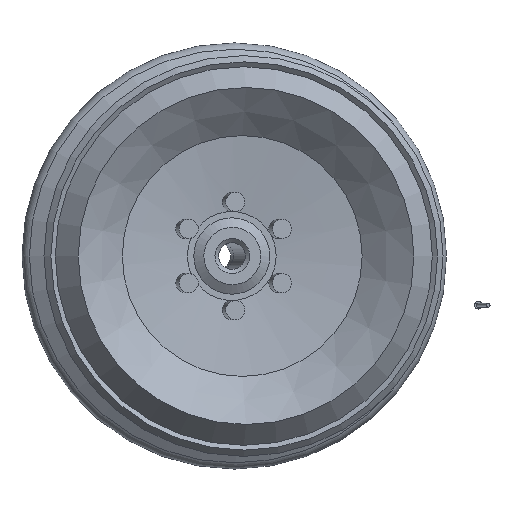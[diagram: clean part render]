
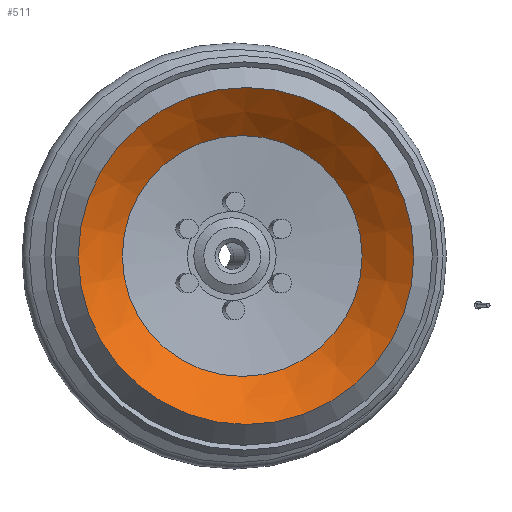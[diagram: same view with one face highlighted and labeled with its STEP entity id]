
A CAD part, front view. The second image highlights one B-rep face of the part: STEP entity #511.
In plain terms, the highlighted conical face has half-angle 49.128 degrees and reference radius 18.929 mm.
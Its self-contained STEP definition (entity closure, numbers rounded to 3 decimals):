
#511=ADVANCED_FACE('',(#831,#832),#833,.F.);
#831=FACE_OUTER_BOUND('',#1113,.T.);
#832=FACE_BOUND('',#1114,.T.);
#833=CONICAL_SURFACE('',#1115,18.929,0.857);
#1113=EDGE_LOOP('',(#1585));
#1114=EDGE_LOOP('',(#1586));
#1115=AXIS2_PLACEMENT_3D('',#1587,#1588,#1589);
#1585=ORIENTED_EDGE('',*,*,#1766,.T.);
#1586=ORIENTED_EDGE('',*,*,#1764,.F.);
#1587=CARTESIAN_POINT('',(0.,-30.583,0.));
#1588=DIRECTION('',(0.,-1.0,0.));
#1589=DIRECTION('',(0.0,0.,-1.0));
#1764=EDGE_CURVE('',#2003,#2003,#2004,.T.);
#1766=EDGE_CURVE('',#2006,#2006,#2007,.T.);
#2003=VERTEX_POINT('',#2680);
#2004=CIRCLE('',#2681,18.929);
#2006=VERTEX_POINT('',#2683);
#2007=CIRCLE('',#2684,26.488);
#2680=CARTESIAN_POINT('',(0.,-30.583,-18.929));
#2681=AXIS2_PLACEMENT_3D('',#2867,#2868,#2869);
#2683=CARTESIAN_POINT('',(0.,-37.124,-26.488));
#2684=AXIS2_PLACEMENT_3D('',#2870,#2871,#2872);
#2867=CARTESIAN_POINT('',(0.,-30.583,0.));
#2868=DIRECTION('',(0.,-1.0,0.));
#2869=DIRECTION('',(0.0,0.,-1.0));
#2870=CARTESIAN_POINT('',(0.,-37.124,0.));
#2871=DIRECTION('',(0.,-1.0,0.));
#2872=DIRECTION('',(0.0,0.,-1.0));
